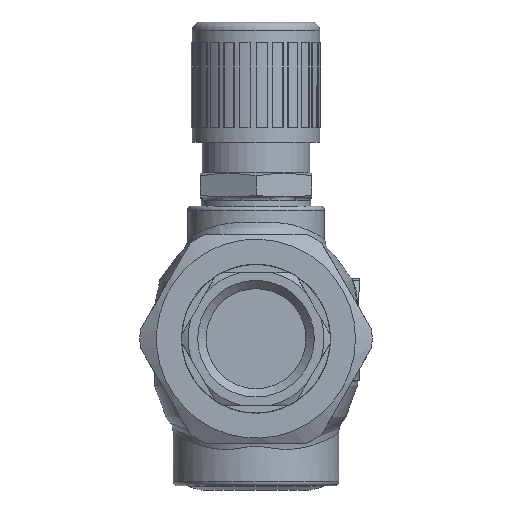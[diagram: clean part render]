
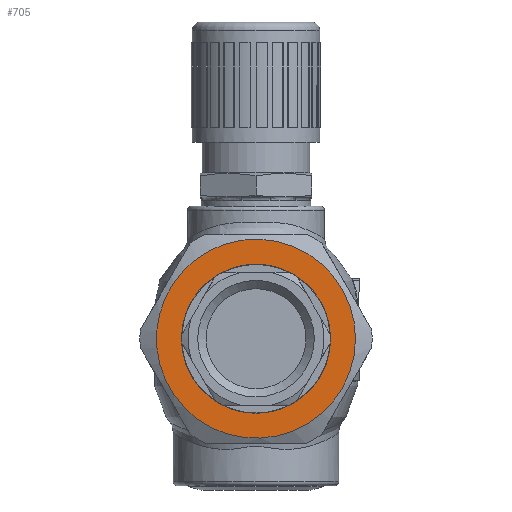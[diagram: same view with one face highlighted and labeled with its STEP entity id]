
A CAD part, left-side view. The second image highlights one B-rep face of the part: STEP entity #705.
In plain terms, the highlighted planar face has unit normal (-1, 0, 0).
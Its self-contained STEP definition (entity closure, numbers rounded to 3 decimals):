
#339=PLANE('',#5004);
#511=FACE_BOUND('',#1299,.T.);
#512=FACE_BOUND('',#1300,.T.);
#705=ADVANCED_FACE('',(#511,#512),#339,.T.);
#1299=EDGE_LOOP('',(#2001));
#1300=EDGE_LOOP('',(#2002));
#1728=CIRCLE('',#5002,18.);
#1729=CIRCLE('',#5003,24.);
#2001=ORIENTED_EDGE('',*,*,#3789,.T.);
#2002=ORIENTED_EDGE('',*,*,#3790,.T.);
#3329=VERTEX_POINT('',#6982);
#3330=VERTEX_POINT('',#6984);
#3789=EDGE_CURVE('',#3329,#3329,#1728,.T.);
#3790=EDGE_CURVE('',#3330,#3330,#1729,.T.);
#5002=AXIS2_PLACEMENT_3D('',#6981,#5588,#5589);
#5003=AXIS2_PLACEMENT_3D('',#6983,#5590,#5591);
#5004=AXIS2_PLACEMENT_3D('',#6985,#5592,#5593);
#5588=DIRECTION('',(1.,0.,0.));
#5589=DIRECTION('',(0.,1.,0.));
#5590=DIRECTION('',(-1.,0.,0.));
#5591=DIRECTION('',(0.,-1.,0.));
#5592=DIRECTION('',(-1.,0.,0.));
#5593=DIRECTION('',(0.,-1.,0.));
#6981=CARTESIAN_POINT('',(41.,0.,100.));
#6982=CARTESIAN_POINT('',(41.,18.,100.));
#6983=CARTESIAN_POINT('',(41.,0.,100.));
#6984=CARTESIAN_POINT('',(41.,-24.,100.));
#6985=CARTESIAN_POINT('',(41.,0.,100.));
